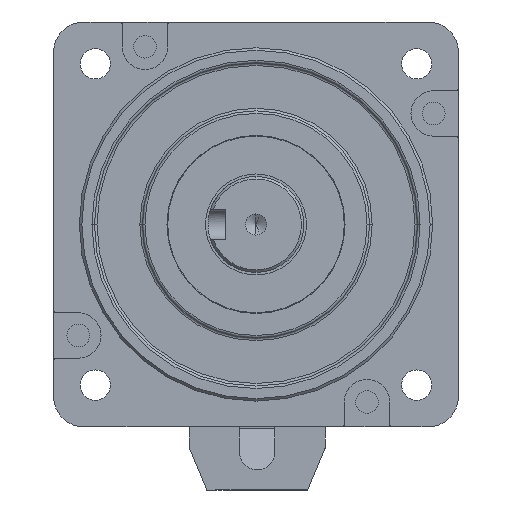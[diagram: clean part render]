
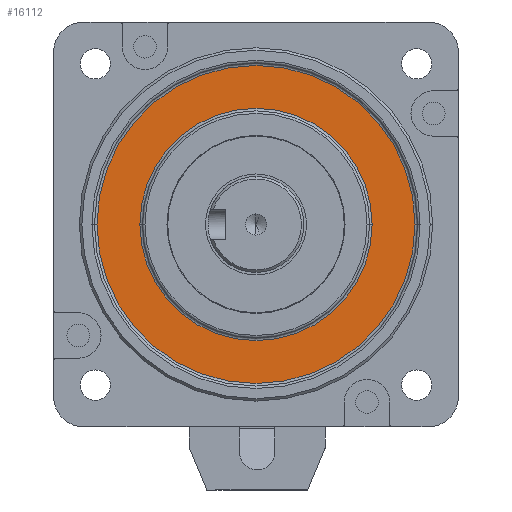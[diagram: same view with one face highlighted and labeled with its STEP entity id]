
A CAD part, left-side view. The second image highlights one B-rep face of the part: STEP entity #16112.
In plain terms, the highlighted planar face has unit normal (-1, 0, 0) as drawn and (0, 0, 1) by its records, which use the part's own axes.
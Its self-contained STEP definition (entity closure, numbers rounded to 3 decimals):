
#3200 = FACE_OUTER_BOUND ( 'NONE', #17332, .T. ) ;
#3749 = EDGE_CURVE ( 'NONE', #5374, #19194, #16914, .T. ) ;
#4975 = DIRECTION ( 'NONE',  ( 0., 0., -1. ) ) ;
#5325 = CARTESIAN_POINT ( 'NONE',  ( 23., 0., 17. ) ) ;
#5374 = VERTEX_POINT ( 'NONE', #23902 ) ;
#7551 = DIRECTION ( 'NONE',  ( -1., 0., 0. ) ) ;
#7619 = FACE_BOUND ( 'NONE', #14733, .T. ) ;
#7923 = ORIENTED_EDGE ( 'NONE', *, *, #13462, .F. ) ;
#9053 = DIRECTION ( 'NONE',  ( -1., 0., 0. ) ) ;
#10276 = ORIENTED_EDGE ( 'NONE', *, *, #3749, .F. ) ;
#11203 = DIRECTION ( 'NONE',  ( 0., 0., -1. ) ) ;
#11719 = DIRECTION ( 'NONE',  ( -1., 0., 0. ) ) ;
#11859 = EDGE_CURVE ( 'NONE', #13766, #22936, #23639, .T. ) ;
#11878 = AXIS2_PLACEMENT_3D ( 'NONE', #13944, #23815, #11719 ) ;
#12856 = CARTESIAN_POINT ( 'NONE',  ( 0., 0., 17. ) ) ;
#13462 = EDGE_CURVE ( 'NONE', #19194, #5374, #21376, .T. ) ;
#13651 = CARTESIAN_POINT ( 'NONE',  ( 0., 0., 17. ) ) ;
#13766 = VERTEX_POINT ( 'NONE', #5325 ) ;
#13944 = CARTESIAN_POINT ( 'NONE',  ( 0., 0., 17. ) ) ;
#14108 = AXIS2_PLACEMENT_3D ( 'NONE', #21527, #19509, #7551 ) ;
#14733 = EDGE_LOOP ( 'NONE', ( #18207, #15770 ) ) ;
#15124 = CARTESIAN_POINT ( 'NONE',  ( 0., 31.5, 17. ) ) ;
#15303 = PLANE ( 'NONE',  #15852 ) ;
#15608 = DIRECTION ( 'NONE',  ( 0., 0., -1. ) ) ;
#15691 = DIRECTION ( 'NONE',  ( -1., 0., 0. ) ) ;
#15770 = ORIENTED_EDGE ( 'NONE', *, *, #11859, .T. ) ;
#15852 = AXIS2_PLACEMENT_3D ( 'NONE', #15124, #11203, #23134 ) ;
#16112 = ADVANCED_FACE ( 'NONE', ( #3200, #7619 ), #15303, .F. ) ;
#16914 = CIRCLE ( 'NONE', #14108, 31.5 ) ;
#17332 = EDGE_LOOP ( 'NONE', ( #10276, #7923 ) ) ;
#18207 = ORIENTED_EDGE ( 'NONE', *, *, #19802, .T. ) ;
#18292 = AXIS2_PLACEMENT_3D ( 'NONE', #12856, #4975, #9053 ) ;
#18635 = AXIS2_PLACEMENT_3D ( 'NONE', #13651, #15608, #15691 ) ;
#19132 = CIRCLE ( 'NONE', #18292, 23. ) ;
#19194 = VERTEX_POINT ( 'NONE', #24634 ) ;
#19509 = DIRECTION ( 'NONE',  ( 0., 0., -1. ) ) ;
#19802 = EDGE_CURVE ( 'NONE', #22936, #13766, #19132, .T. ) ;
#21376 = CIRCLE ( 'NONE', #11878, 31.5 ) ;
#21527 = CARTESIAN_POINT ( 'NONE',  ( 0., 0., 17. ) ) ;
#22936 = VERTEX_POINT ( 'NONE', #24880 ) ;
#23134 = DIRECTION ( 'NONE',  ( -1., 0., 0. ) ) ;
#23639 = CIRCLE ( 'NONE', #18635, 23. ) ;
#23815 = DIRECTION ( 'NONE',  ( 0., 0., -1. ) ) ;
#23902 = CARTESIAN_POINT ( 'NONE',  ( -31.5, 0., 17. ) ) ;
#24634 = CARTESIAN_POINT ( 'NONE',  ( 31.5, 0., 17. ) ) ;
#24880 = CARTESIAN_POINT ( 'NONE',  ( -23., 0., 17. ) ) ;
